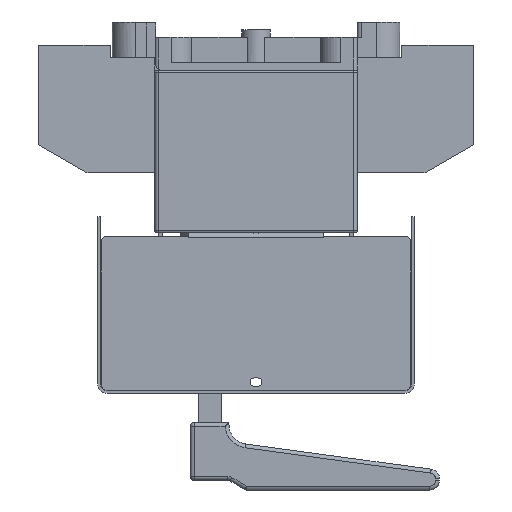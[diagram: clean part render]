
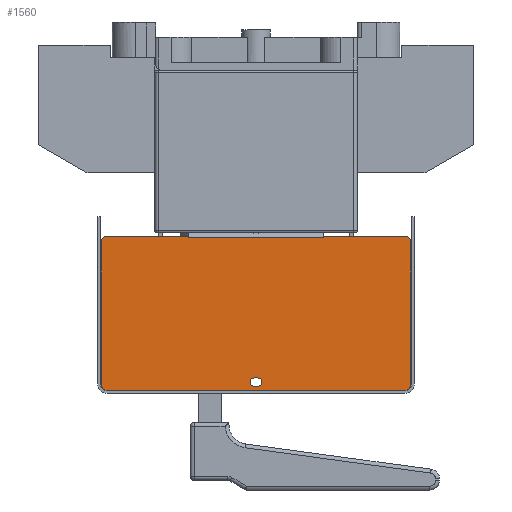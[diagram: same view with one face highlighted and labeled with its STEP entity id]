
A CAD part, left-side view. The second image highlights one B-rep face of the part: STEP entity #1560.
In plain terms, the highlighted planar face has unit normal (-1, 0, 0).
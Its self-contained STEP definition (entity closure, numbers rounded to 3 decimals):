
#684=FACE_BOUND('',#5320,.T.);
#685=FACE_BOUND('',#5321,.T.);
#1560=ADVANCED_FACE('',(#684,#685),#2757,.T.);
#2757=PLANE('',#28217);
#5320=EDGE_LOOP('',(#11068,#11069,#11070,#11071));
#5321=EDGE_LOOP('',(#11072,#11073,#11074,#11075,#11076,#11077,#11078,#11079,
#11080,#11081,#11082,#11083,#11084,#11085));
#6601=CIRCLE('',#28211,2.1);
#6602=CIRCLE('',#28212,2.1);
#6603=CIRCLE('',#28213,3.);
#6604=CIRCLE('',#28214,3.);
#6605=CIRCLE('',#28215,3.);
#6606=CIRCLE('',#28216,3.);
#11068=ORIENTED_EDGE('',*,*,#19379,.T.);
#11069=ORIENTED_EDGE('',*,*,#19380,.T.);
#11070=ORIENTED_EDGE('',*,*,#19381,.T.);
#11071=ORIENTED_EDGE('',*,*,#19382,.T.);
#11072=ORIENTED_EDGE('',*,*,#19358,.F.);
#11073=ORIENTED_EDGE('',*,*,#19356,.T.);
#11074=ORIENTED_EDGE('',*,*,#19343,.T.);
#11075=ORIENTED_EDGE('',*,*,#19360,.T.);
#11076=ORIENTED_EDGE('',*,*,#19363,.F.);
#11077=ORIENTED_EDGE('',*,*,#19383,.T.);
#11078=ORIENTED_EDGE('',*,*,#19384,.T.);
#11079=ORIENTED_EDGE('',*,*,#19385,.T.);
#11080=ORIENTED_EDGE('',*,*,#19386,.T.);
#11081=ORIENTED_EDGE('',*,*,#19387,.T.);
#11082=ORIENTED_EDGE('',*,*,#19388,.T.);
#11083=ORIENTED_EDGE('',*,*,#19389,.T.);
#11084=ORIENTED_EDGE('',*,*,#19390,.T.);
#11085=ORIENTED_EDGE('',*,*,#19391,.T.);
#16147=VERTEX_POINT('',#41243);
#16148=VERTEX_POINT('',#41245);
#16153=VERTEX_POINT('',#41266);
#16156=VERTEX_POINT('',#41274);
#16157=VERTEX_POINT('',#41278);
#16159=VERTEX_POINT('',#41284);
#16173=VERTEX_POINT('',#41316);
#16174=VERTEX_POINT('',#41317);
#16175=VERTEX_POINT('',#41319);
#16176=VERTEX_POINT('',#41321);
#16177=VERTEX_POINT('',#41324);
#16178=VERTEX_POINT('',#41326);
#16179=VERTEX_POINT('',#41328);
#16180=VERTEX_POINT('',#41330);
#16181=VERTEX_POINT('',#41332);
#16182=VERTEX_POINT('',#41334);
#16183=VERTEX_POINT('',#41336);
#16184=VERTEX_POINT('',#41338);
#19343=EDGE_CURVE('',#16148,#16147,#22748,.T.);
#19356=EDGE_CURVE('',#16153,#16148,#22758,.T.);
#19358=EDGE_CURVE('',#16153,#16156,#22760,.T.);
#19360=EDGE_CURVE('',#16147,#16157,#22762,.T.);
#19363=EDGE_CURVE('',#16159,#16157,#22765,.T.);
#19379=EDGE_CURVE('',#16173,#16174,#6601,.T.);
#19380=EDGE_CURVE('',#16174,#16175,#22775,.T.);
#19381=EDGE_CURVE('',#16175,#16176,#6602,.T.);
#19382=EDGE_CURVE('',#16176,#16173,#22776,.T.);
#19383=EDGE_CURVE('',#16159,#16177,#22777,.T.);
#19384=EDGE_CURVE('',#16177,#16178,#6603,.T.);
#19385=EDGE_CURVE('',#16178,#16179,#22778,.T.);
#19386=EDGE_CURVE('',#16179,#16180,#6604,.T.);
#19387=EDGE_CURVE('',#16180,#16181,#22779,.T.);
#19388=EDGE_CURVE('',#16181,#16182,#6605,.T.);
#19389=EDGE_CURVE('',#16182,#16183,#22780,.T.);
#19390=EDGE_CURVE('',#16183,#16184,#6606,.T.);
#19391=EDGE_CURVE('',#16184,#16156,#22781,.T.);
#22748=LINE('',#41244,#25685);
#22758=LINE('',#41269,#25695);
#22760=LINE('',#41273,#25697);
#22762=LINE('',#41277,#25699);
#22765=LINE('',#41283,#25702);
#22775=LINE('',#41318,#25712);
#22776=LINE('',#41322,#25713);
#22777=LINE('',#41323,#25714);
#22778=LINE('',#41327,#25715);
#22779=LINE('',#41331,#25716);
#22780=LINE('',#41335,#25717);
#22781=LINE('',#41339,#25718);
#25685=VECTOR('',#33233,1.);
#25695=VECTOR('',#33259,1.);
#25697=VECTOR('',#33263,1.);
#25699=VECTOR('',#33267,1.);
#25702=VECTOR('',#33272,1.);
#25712=VECTOR('',#33300,1.);
#25713=VECTOR('',#33303,1.);
#25714=VECTOR('',#33304,1.);
#25715=VECTOR('',#33307,1.);
#25716=VECTOR('',#33310,1.);
#25717=VECTOR('',#33313,1.);
#25718=VECTOR('',#33316,1.);
#28211=AXIS2_PLACEMENT_3D('',#41315,#33298,#33299);
#28212=AXIS2_PLACEMENT_3D('',#41320,#33301,#33302);
#28213=AXIS2_PLACEMENT_3D('',#41325,#33305,#33306);
#28214=AXIS2_PLACEMENT_3D('',#41329,#33308,#33309);
#28215=AXIS2_PLACEMENT_3D('',#41333,#33311,#33312);
#28216=AXIS2_PLACEMENT_3D('',#41337,#33314,#33315);
#28217=AXIS2_PLACEMENT_3D('',#41340,#33317,#33318);
#33233=DIRECTION('',(0.,1.,0.));
#33259=DIRECTION('',(0.,1.,0.));
#33263=DIRECTION('',(0.,0.,1.));
#33267=DIRECTION('',(0.,1.,0.));
#33272=DIRECTION('',(0.,0.,-1.));
#33298=DIRECTION('',(1.,0.,0.));
#33299=DIRECTION('',(0.,1.,0.));
#33300=DIRECTION('',(0.,-1.,0.));
#33301=DIRECTION('',(1.,0.,0.));
#33302=DIRECTION('',(0.,1.,0.));
#33303=DIRECTION('',(0.,1.,0.));
#33304=DIRECTION('',(0.,1.,0.));
#33305=DIRECTION('',(-1.,0.,0.));
#33306=DIRECTION('',(0.,1.,0.));
#33307=DIRECTION('',(0.,0.,-1.));
#33308=DIRECTION('',(-1.,0.,0.));
#33309=DIRECTION('',(0.,1.,0.));
#33310=DIRECTION('',(0.,-1.,0.));
#33311=DIRECTION('',(-1.,0.,0.));
#33312=DIRECTION('',(0.,1.,0.));
#33313=DIRECTION('',(0.,0.,1.));
#33314=DIRECTION('',(-1.,0.,0.));
#33315=DIRECTION('',(0.,1.,0.));
#33316=DIRECTION('',(0.,1.,0.));
#33317=DIRECTION('',(-1.,0.,0.));
#33318=DIRECTION('',(0.,-1.,0.));
#41243=CARTESIAN_POINT('',(-189.3,35.,-86.8));
#41244=CARTESIAN_POINT('',(-189.3,50.5,-86.8));
#41245=CARTESIAN_POINT('',(-189.3,-35.,-86.8));
#41266=CARTESIAN_POINT('',(-189.3,-35.002,-86.8));
#41269=CARTESIAN_POINT('',(-189.3,77.,-86.8));
#41273=CARTESIAN_POINT('',(-189.3,-35.002,-162.8));
#41274=CARTESIAN_POINT('',(-189.3,-35.002,-85.8));
#41277=CARTESIAN_POINT('',(-189.3,77.,-86.8));
#41278=CARTESIAN_POINT('',(-189.3,35.002,-86.8));
#41283=CARTESIAN_POINT('',(-189.3,35.002,-162.8));
#41284=CARTESIAN_POINT('',(-189.3,35.002,-85.8));
#41315=CARTESIAN_POINT('',(-189.3,1.,-161.4));
#41316=CARTESIAN_POINT('',(-189.3,1.,-163.5));
#41317=CARTESIAN_POINT('',(-189.3,1.,-159.3));
#41318=CARTESIAN_POINT('',(-189.3,1.,-159.3));
#41319=CARTESIAN_POINT('',(-189.3,-1.,-159.3));
#41320=CARTESIAN_POINT('',(-189.3,-1.,-161.4));
#41321=CARTESIAN_POINT('',(-189.3,-1.,-163.5));
#41322=CARTESIAN_POINT('',(-189.3,-1.,-163.5));
#41323=CARTESIAN_POINT('',(-189.3,-77.,-85.8));
#41324=CARTESIAN_POINT('',(-189.3,77.,-85.8));
#41325=CARTESIAN_POINT('',(-189.3,77.,-88.8));
#41326=CARTESIAN_POINT('',(-189.3,80.,-88.8));
#41327=CARTESIAN_POINT('',(-189.3,80.,-88.8));
#41328=CARTESIAN_POINT('',(-189.3,80.,-162.8));
#41329=CARTESIAN_POINT('',(-189.3,77.,-162.8));
#41330=CARTESIAN_POINT('',(-189.3,77.,-165.8));
#41331=CARTESIAN_POINT('',(-189.3,77.,-165.8));
#41332=CARTESIAN_POINT('',(-189.3,-77.,-165.8));
#41333=CARTESIAN_POINT('',(-189.3,-77.,-162.8));
#41334=CARTESIAN_POINT('',(-189.3,-80.,-162.8));
#41335=CARTESIAN_POINT('',(-189.3,-80.,-162.8));
#41336=CARTESIAN_POINT('',(-189.3,-80.,-88.8));
#41337=CARTESIAN_POINT('',(-189.3,-77.,-88.8));
#41338=CARTESIAN_POINT('',(-189.3,-77.,-85.8));
#41339=CARTESIAN_POINT('',(-189.3,-77.,-85.8));
#41340=CARTESIAN_POINT('',(-189.3,77.,-162.8));
